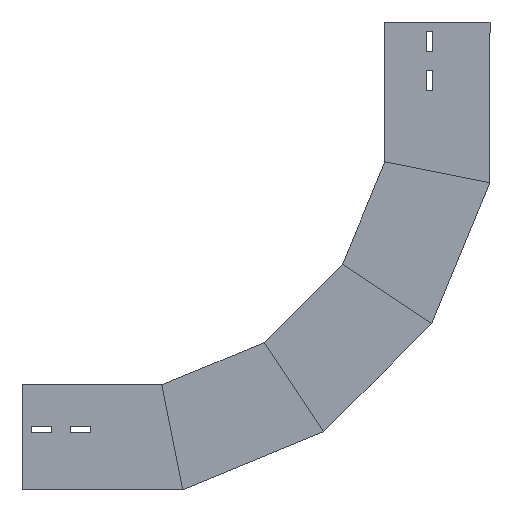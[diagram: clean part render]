
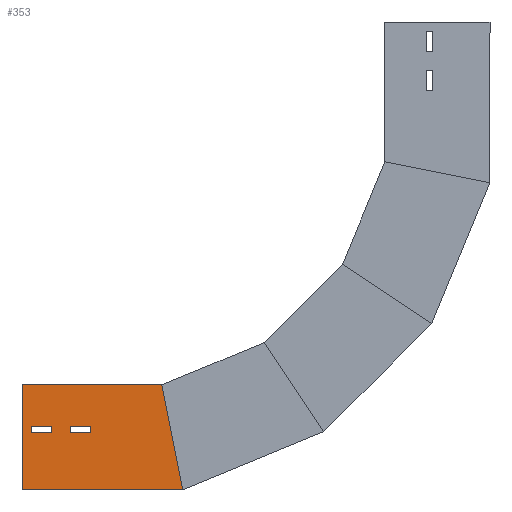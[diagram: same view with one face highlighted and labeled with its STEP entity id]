
A CAD part, left-side view. The second image highlights one B-rep face of the part: STEP entity #353.
In plain terms, the highlighted planar face has unit normal (-1, 0, 0) as drawn and (1, 0, 0) by its records, which use the part's own axes.
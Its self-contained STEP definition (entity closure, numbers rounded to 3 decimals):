
#18 = VECTOR ( 'NONE', #1606, 1000. ) ;
#42 = ORIENTED_EDGE ( 'NONE', *, *, #1801, .T. ) ;
#57 = VERTEX_POINT ( 'NONE', #1883 ) ;
#91 = VERTEX_POINT ( 'NONE', #1134 ) ;
#95 = CARTESIAN_POINT ( 'NONE',  ( 0., 68.5, -31.835 ) ) ;
#105 = DIRECTION ( 'NONE',  ( 0., 0., 1. ) ) ;
#117 = CARTESIAN_POINT ( 'NONE',  ( 0., 0., 0. ) ) ;
#131 = DIRECTION ( 'NONE',  ( 0., 0., -1. ) ) ;
#172 = LINE ( 'NONE', #1478, #535 ) ;
#173 = CARTESIAN_POINT ( 'NONE',  ( 0., 112.5, 0. ) ) ;
#184 = CARTESIAN_POINT ( 'NONE',  ( 0., 68.5, -51.505 ) ) ;
#233 = ORIENTED_EDGE ( 'NONE', *, *, #641, .T. ) ;
#240 = VERTEX_POINT ( 'NONE', #730 ) ;
#254 = ORIENTED_EDGE ( 'NONE', *, *, #1553, .T. ) ;
#259 = LINE ( 'NONE', #1293, #589 ) ;
#301 = VERTEX_POINT ( 'NONE', #184 ) ;
#321 = VECTOR ( 'NONE', #1339, 1000. ) ;
#353 = ADVANCED_FACE ( 'NONE', ( #358, #648, #925 ), #1352, .F. ) ;
#358 = FACE_BOUND ( 'NONE', #1338, .T. ) ;
#367 = EDGE_LOOP ( 'NONE', ( #1533, #1039, #42, #745 ) ) ;
#372 = DIRECTION ( 'NONE',  ( 0., 1., 0. ) ) ;
#384 = CARTESIAN_POINT ( 'NONE',  ( 0., 61.5, -9.835 ) ) ;
#395 = EDGE_CURVE ( 'NONE', #91, #1810, #1136, .T. ) ;
#445 = EDGE_CURVE ( 'NONE', #1235, #484, #259, .T. ) ;
#453 = EDGE_CURVE ( 'NONE', #1840, #1349, #1536, .T. ) ;
#463 = CARTESIAN_POINT ( 'NONE',  ( 0., 0., -172.1 ) ) ;
#466 = ORIENTED_EDGE ( 'NONE', *, *, #445, .T. ) ;
#484 = VERTEX_POINT ( 'NONE', #95 ) ;
#502 = EDGE_CURVE ( 'NONE', #57, #240, #701, .T. ) ;
#526 = CARTESIAN_POINT ( 'NONE',  ( 0., 68.5, -51.505 ) ) ;
#535 = VECTOR ( 'NONE', #1207, 1000. ) ;
#573 = EDGE_CURVE ( 'NONE', #1458, #91, #1160, .T. ) ;
#580 = CARTESIAN_POINT ( 'NONE',  ( 0., 61.5, -31.835 ) ) ;
#589 = VECTOR ( 'NONE', #131, 1000. ) ;
#627 = DIRECTION ( 'NONE',  ( -1., 0., 0. ) ) ;
#641 = EDGE_CURVE ( 'NONE', #1349, #1235, #1670, .T. ) ;
#648 = FACE_OUTER_BOUND ( 'NONE', #367, .T. ) ;
#662 = VERTEX_POINT ( 'NONE', #1517 ) ;
#701 = LINE ( 'NONE', #1283, #1321 ) ;
#705 = EDGE_CURVE ( 'NONE', #1660, #1458, #1822, .T. ) ;
#730 = CARTESIAN_POINT ( 'NONE',  ( 0., 61.5, -51.505 ) ) ;
#745 = ORIENTED_EDGE ( 'NONE', *, *, #395, .F. ) ;
#763 = DIRECTION ( 'NONE',  ( 0., 0., -1. ) ) ;
#829 = CARTESIAN_POINT ( 'NONE',  ( 0., 68.5, -9.835 ) ) ;
#877 = CARTESIAN_POINT ( 'NONE',  ( 0., 68.5, -31.835 ) ) ;
#883 = LINE ( 'NONE', #877, #1276 ) ;
#925 = FACE_BOUND ( 'NONE', #1230, .T. ) ;
#951 = CARTESIAN_POINT ( 'NONE',  ( 0., 0., 0. ) ) ;
#990 = VECTOR ( 'NONE', #1572, 1000. ) ;
#1006 = ORIENTED_EDGE ( 'NONE', *, *, #1317, .T. ) ;
#1022 = AXIS2_PLACEMENT_3D ( 'NONE', #951, #627, #1800 ) ;
#1039 = ORIENTED_EDGE ( 'NONE', *, *, #705, .F. ) ;
#1045 = EDGE_CURVE ( 'NONE', #301, #662, #172, .T. ) ;
#1064 = DIRECTION ( 'NONE',  ( 0., 0., -1. ) ) ;
#1089 = ORIENTED_EDGE ( 'NONE', *, *, #1045, .T. ) ;
#1115 = ORIENTED_EDGE ( 'NONE', *, *, #453, .T. ) ;
#1134 = CARTESIAN_POINT ( 'NONE',  ( 0., 112.5, -149.722 ) ) ;
#1136 = LINE ( 'NONE', #1705, #990 ) ;
#1157 = LINE ( 'NONE', #1767, #18 ) ;
#1160 = LINE ( 'NONE', #173, #1496 ) ;
#1193 = CARTESIAN_POINT ( 'NONE',  ( 0., 0., 0. ) ) ;
#1207 = DIRECTION ( 'NONE',  ( 0., 0., -1. ) ) ;
#1214 = CARTESIAN_POINT ( 'NONE',  ( 0., 112.5, 0. ) ) ;
#1218 = DIRECTION ( 'NONE',  ( 0., 1., 0. ) ) ;
#1230 = EDGE_LOOP ( 'NONE', ( #233, #466, #1821, #1115 ) ) ;
#1235 = VERTEX_POINT ( 'NONE', #829 ) ;
#1242 = CARTESIAN_POINT ( 'NONE',  ( 0., 68.5, -9.835 ) ) ;
#1276 = VECTOR ( 'NONE', #1620, 1000. ) ;
#1283 = CARTESIAN_POINT ( 'NONE',  ( 0., 61.5, -51.505 ) ) ;
#1293 = CARTESIAN_POINT ( 'NONE',  ( 0., 68.5, -9.835 ) ) ;
#1317 = EDGE_CURVE ( 'NONE', #662, #57, #1157, .T. ) ;
#1321 = VECTOR ( 'NONE', #1877, 1000. ) ;
#1338 = EDGE_LOOP ( 'NONE', ( #254, #1089, #1006, #1468 ) ) ;
#1339 = DIRECTION ( 'NONE',  ( 0., 1., 0. ) ) ;
#1343 = CARTESIAN_POINT ( 'NONE',  ( 0., 0., 0. ) ) ;
#1349 = VERTEX_POINT ( 'NONE', #1447 ) ;
#1352 = PLANE ( 'NONE',  #1022 ) ;
#1447 = CARTESIAN_POINT ( 'NONE',  ( 0., 61.5, -9.835 ) ) ;
#1458 = VERTEX_POINT ( 'NONE', #1214 ) ;
#1468 = ORIENTED_EDGE ( 'NONE', *, *, #502, .T. ) ;
#1478 = CARTESIAN_POINT ( 'NONE',  ( 0., 68.5, -51.505 ) ) ;
#1496 = VECTOR ( 'NONE', #763, 1000. ) ;
#1517 = CARTESIAN_POINT ( 'NONE',  ( 0., 68.5, -73.505 ) ) ;
#1533 = ORIENTED_EDGE ( 'NONE', *, *, #573, .F. ) ;
#1536 = LINE ( 'NONE', #384, #1687 ) ;
#1553 = EDGE_CURVE ( 'NONE', #240, #301, #1644, .T. ) ;
#1572 = DIRECTION ( 'NONE',  ( 0., -0.981, -0.195 ) ) ;
#1606 = DIRECTION ( 'NONE',  ( 0., -1., 0. ) ) ;
#1615 = VECTOR ( 'NONE', #1218, 1000. ) ;
#1620 = DIRECTION ( 'NONE',  ( 0., -1., 0. ) ) ;
#1644 = LINE ( 'NONE', #526, #321 ) ;
#1660 = VERTEX_POINT ( 'NONE', #117 ) ;
#1670 = LINE ( 'NONE', #1242, #1615 ) ;
#1687 = VECTOR ( 'NONE', #105, 1000. ) ;
#1691 = VECTOR ( 'NONE', #372, 1000. ) ;
#1705 = CARTESIAN_POINT ( 'NONE',  ( 0., 32.93, -165.55 ) ) ;
#1732 = VECTOR ( 'NONE', #1064, 1000. ) ;
#1764 = LINE ( 'NONE', #1193, #1732 ) ;
#1767 = CARTESIAN_POINT ( 'NONE',  ( 0., 68.5, -73.505 ) ) ;
#1800 = DIRECTION ( 'NONE',  ( 0., 0., 1. ) ) ;
#1801 = EDGE_CURVE ( 'NONE', #1660, #1810, #1764, .T. ) ;
#1810 = VERTEX_POINT ( 'NONE', #463 ) ;
#1821 = ORIENTED_EDGE ( 'NONE', *, *, #1832, .T. ) ;
#1822 = LINE ( 'NONE', #1343, #1691 ) ;
#1832 = EDGE_CURVE ( 'NONE', #484, #1840, #883, .T. ) ;
#1840 = VERTEX_POINT ( 'NONE', #580 ) ;
#1877 = DIRECTION ( 'NONE',  ( 0., 0., 1. ) ) ;
#1883 = CARTESIAN_POINT ( 'NONE',  ( 0., 61.5, -73.505 ) ) ;
